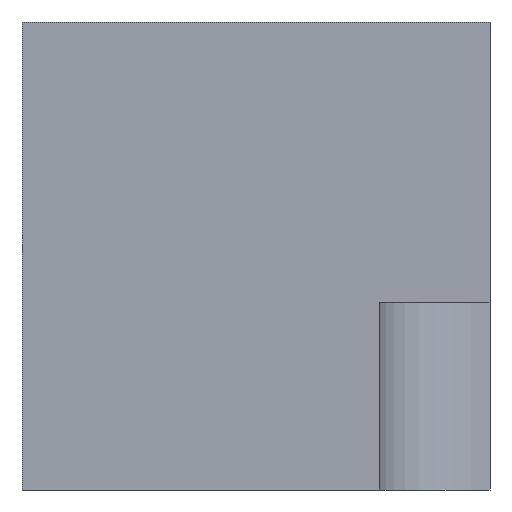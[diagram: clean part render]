
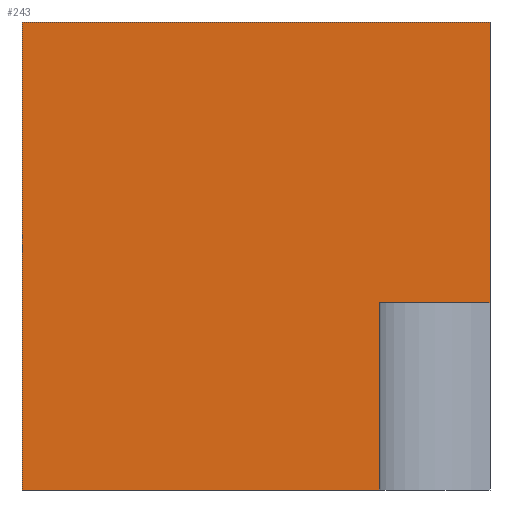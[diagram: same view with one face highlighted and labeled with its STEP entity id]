
A CAD part, left-side view. The second image highlights one B-rep face of the part: STEP entity #243.
In plain terms, the highlighted planar face has unit normal (-1, 0, 0).
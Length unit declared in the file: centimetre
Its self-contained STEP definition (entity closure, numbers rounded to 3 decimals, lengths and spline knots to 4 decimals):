
#18 = CARTESIAN_POINT ( 'NONE',  ( 0., 236.2339, 399.8761 ) ) ;
#25 = CARTESIAN_POINT ( 'NONE',  ( 0., 0., 399.8761 ) ) ;
#95 = VERTEX_POINT ( 'NONE', #25 ) ;
#99 = CARTESIAN_POINT ( 'NONE',  ( 0., 236.2339, 0. ) ) ;
#112 = AXIS2_PLACEMENT_3D ( 'NONE', #184, #762, #168 ) ;
#130 = EDGE_CURVE ( 'NONE', #183, #308, #866, .T. ) ;
#143 = EDGE_LOOP ( 'NONE', ( #364, #296, #872, #648, #859, #599 ) ) ;
#168 = DIRECTION ( 'NONE',  ( 0., 0., -1. ) ) ;
#183 = VERTEX_POINT ( 'NONE', #532 ) ;
#184 = CARTESIAN_POINT ( 'NONE',  ( 0., 1000., 1000. ) ) ;
#187 = VECTOR ( 'NONE', #659, 100. ) ;
#210 = VECTOR ( 'NONE', #538, 100. ) ;
#214 = CARTESIAN_POINT ( 'NONE',  ( 0., 1000., 1000. ) ) ;
#238 = DIRECTION ( 'NONE',  ( 0., 0., -1. ) ) ;
#243 = ADVANCED_FACE ( 'NONE', ( #616 ), #835, .F. ) ;
#247 = CARTESIAN_POINT ( 'NONE',  ( 0., 1000., 1000. ) ) ;
#296 = ORIENTED_EDGE ( 'NONE', *, *, #439, .T. ) ;
#308 = VERTEX_POINT ( 'NONE', #99 ) ;
#317 = VECTOR ( 'NONE', #382, 100. ) ;
#352 = EDGE_CURVE ( 'NONE', #370, #95, #402, .T. ) ;
#359 = DIRECTION ( 'NONE',  ( 0., 0., 1. ) ) ;
#363 = EDGE_CURVE ( 'NONE', #887, #183, #384, .T. ) ;
#364 = ORIENTED_EDGE ( 'NONE', *, *, #130, .T. ) ;
#370 = VERTEX_POINT ( 'NONE', #579 ) ;
#378 = VECTOR ( 'NONE', #359, 100. ) ;
#382 = DIRECTION ( 'NONE',  ( 0., 1., 0. ) ) ;
#384 = LINE ( 'NONE', #214, #759 ) ;
#402 = LINE ( 'NONE', #885, #684 ) ;
#439 = EDGE_CURVE ( 'NONE', #308, #655, #573, .T. ) ;
#532 = CARTESIAN_POINT ( 'NONE',  ( 0., 1000., 0. ) ) ;
#533 = LINE ( 'NONE', #247, #187 ) ;
#538 = DIRECTION ( 'NONE',  ( 0., -1., 0. ) ) ;
#550 = CARTESIAN_POINT ( 'NONE',  ( 0., 236.2339, 399.8761 ) ) ;
#553 = EDGE_CURVE ( 'NONE', #887, #370, #533, .T. ) ;
#563 = EDGE_CURVE ( 'NONE', #95, #655, #581, .T. ) ;
#573 = LINE ( 'NONE', #18, #378 ) ;
#579 = CARTESIAN_POINT ( 'NONE',  ( 0., 0., 1000. ) ) ;
#581 = LINE ( 'NONE', #812, #317 ) ;
#599 = ORIENTED_EDGE ( 'NONE', *, *, #363, .T. ) ;
#616 = FACE_OUTER_BOUND ( 'NONE', #143, .T. ) ;
#648 = ORIENTED_EDGE ( 'NONE', *, *, #352, .F. ) ;
#655 = VERTEX_POINT ( 'NONE', #550 ) ;
#659 = DIRECTION ( 'NONE',  ( 0., -1., 0. ) ) ;
#684 = VECTOR ( 'NONE', #238, 100. ) ;
#756 = CARTESIAN_POINT ( 'NONE',  ( 0., 1000., 0. ) ) ;
#759 = VECTOR ( 'NONE', #865, 100. ) ;
#762 = DIRECTION ( 'NONE',  ( 1., 0., 0. ) ) ;
#812 = CARTESIAN_POINT ( 'NONE',  ( 0., 1000., 399.8761 ) ) ;
#835 = PLANE ( 'NONE',  #112 ) ;
#857 = CARTESIAN_POINT ( 'NONE',  ( 0., 1000., 1000. ) ) ;
#859 = ORIENTED_EDGE ( 'NONE', *, *, #553, .F. ) ;
#865 = DIRECTION ( 'NONE',  ( 0., 0., -1. ) ) ;
#866 = LINE ( 'NONE', #756, #210 ) ;
#872 = ORIENTED_EDGE ( 'NONE', *, *, #563, .F. ) ;
#885 = CARTESIAN_POINT ( 'NONE',  ( 0., 0., 1000. ) ) ;
#887 = VERTEX_POINT ( 'NONE', #857 ) ;
